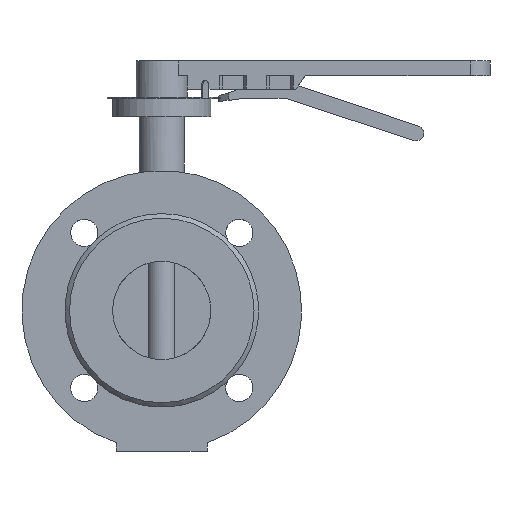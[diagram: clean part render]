
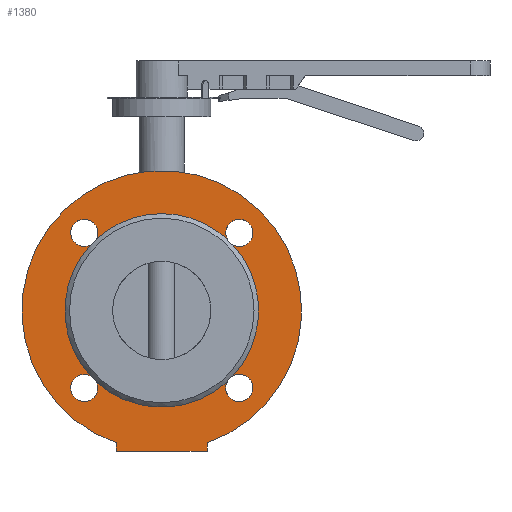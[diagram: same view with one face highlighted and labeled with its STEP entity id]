
A CAD part, front view. The second image highlights one B-rep face of the part: STEP entity #1380.
In plain terms, the highlighted planar face has unit normal (0, -1, 0).
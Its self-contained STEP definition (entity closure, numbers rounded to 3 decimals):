
#1380=ADVANCED_FACE('',(#2624,#2626),#2628,.T.);
#2624=FACE_BOUND('',#2625,.T.);
#2625=EDGE_LOOP('',(#3551,#3552,#3553,#3554));
#2626=FACE_BOUND('',#2627,.T.);
#2627=EDGE_LOOP('',(#3555,#3556,#3557,#3558,#3559,#3560,#3561,#3562,#3563,#3564,
#3565,#3566,#3567));
#2628=PLANE('',#2629);
#2629=AXIS2_PLACEMENT_3D('',#2630,#2631,#2632);
#2630=CARTESIAN_POINT('',(0.,-53.,0.));
#2631=DIRECTION('',(0.,-1.,0.));
#2632=DIRECTION('',(0.,0.,1.));
#3551=ORIENTED_EDGE('',*,*,#4015,.T.);
#3552=ORIENTED_EDGE('',*,*,#4013,.F.);
#3553=ORIENTED_EDGE('',*,*,#4011,.F.);
#3554=ORIENTED_EDGE('',*,*,#4010,.F.);
#3555=ORIENTED_EDGE('',*,*,#4031,.T.);
#3556=ORIENTED_EDGE('',*,*,#4033,.T.);
#3557=ORIENTED_EDGE('',*,*,#4069,.T.);
#3558=ORIENTED_EDGE('',*,*,#4036,.T.);
#3559=ORIENTED_EDGE('',*,*,#4035,.T.);
#3560=ORIENTED_EDGE('',*,*,#4070,.T.);
#3561=ORIENTED_EDGE('',*,*,#4039,.T.);
#3562=ORIENTED_EDGE('',*,*,#4038,.T.);
#3563=ORIENTED_EDGE('',*,*,#4071,.T.);
#3564=ORIENTED_EDGE('',*,*,#4040,.T.);
#3565=ORIENTED_EDGE('',*,*,#4042,.T.);
#3566=ORIENTED_EDGE('',*,*,#4072,.T.);
#3567=ORIENTED_EDGE('',*,*,#4073,.T.);
#4010=EDGE_CURVE('',#4711,#4709,#4713,.T.);
#4011=EDGE_CURVE('',#4709,#4714,#4715,.T.);
#4013=EDGE_CURVE('',#4714,#4717,#4718,.T.);
#4015=EDGE_CURVE('',#4711,#4717,#4720,.T.);
#4031=EDGE_CURVE('',#4742,#4743,#4744,.F.);
#4033=EDGE_CURVE('',#4743,#4745,#4747,.F.);
#4035=EDGE_CURVE('',#4751,#4748,#4752,.F.);
#4036=EDGE_CURVE('',#4749,#4751,#4753,.F.);
#4038=EDGE_CURVE('',#4757,#4754,#4758,.F.);
#4039=EDGE_CURVE('',#4755,#4757,#4759,.F.);
#4040=EDGE_CURVE('',#4760,#4761,#4762,.F.);
#4042=EDGE_CURVE('',#4761,#4763,#4765,.F.);
#4069=EDGE_CURVE('',#4745,#4749,#4811,.T.);
#4070=EDGE_CURVE('',#4748,#4755,#4812,.T.);
#4071=EDGE_CURVE('',#4754,#4760,#4813,.T.);
#4072=EDGE_CURVE('',#4763,#4814,#4815,.T.);
#4073=EDGE_CURVE('',#4814,#4742,#4816,.T.);
#4709=VERTEX_POINT('',#6689);
#4711=VERTEX_POINT('',#6693);
#4713=CIRCLE('',#6697,92.5);
#4714=VERTEX_POINT('',#6701);
#4715=LINE('',#6702,#6703);
#4717=VERTEX_POINT('',#6708);
#4718=LINE('',#6709,#6710);
#4720=LINE('',#6715,#6716);
#4742=VERTEX_POINT('',#6899);
#4743=VERTEX_POINT('',#6900);
#4744=CIRCLE('',#6901,9.);
#4745=VERTEX_POINT('',#6905);
#4747=CIRCLE('',#6957,9.);
#4748=VERTEX_POINT('',#6961);
#4749=VERTEX_POINT('',#6962);
#4751=VERTEX_POINT('',#7014);
#4752=CIRCLE('',#7015,9.);
#4753=CIRCLE('',#7019,9.);
#4754=VERTEX_POINT('',#7023);
#4755=VERTEX_POINT('',#7024);
#4757=VERTEX_POINT('',#7076);
#4758=CIRCLE('',#7077,9.);
#4759=CIRCLE('',#7081,9.);
#4760=VERTEX_POINT('',#7085);
#4761=VERTEX_POINT('',#7086);
#4762=CIRCLE('',#7087,9.);
#4763=VERTEX_POINT('',#7091);
#4765=CIRCLE('',#7143,9.);
#4811=CIRCLE('',#7447,64.);
#4812=CIRCLE('',#7451,64.);
#4813=CIRCLE('',#7455,64.);
#4814=VERTEX_POINT('',#7459);
#4815=CIRCLE('',#7460,64.);
#4816=CIRCLE('',#7464,64.);
#6689=CARTESIAN_POINT('',(30.,-53.,-87.5));
#6693=CARTESIAN_POINT('',(-30.,-53.,-87.5));
#6697=AXIS2_PLACEMENT_3D('',#6698,#6699,#6700);
#6698=CARTESIAN_POINT('',(0.,-53.,0.));
#6699=DIRECTION('',(0.,1.,0.));
#6700=DIRECTION('',(-0.324,0.,-0.946));
#6701=CARTESIAN_POINT('',(30.,-53.,-93.));
#6702=CARTESIAN_POINT('',(30.,-53.,-87.5));
#6703=VECTOR('',#6704,1.);
#6704=DIRECTION('',(0.,0.,-1.));
#6708=CARTESIAN_POINT('',(-30.,-53.,-93.));
#6709=CARTESIAN_POINT('',(30.,-53.,-93.));
#6710=VECTOR('',#6711,1.);
#6711=DIRECTION('',(-1.,0.,0.));
#6715=CARTESIAN_POINT('',(-30.,-53.,-87.5));
#6716=VECTOR('',#6717,1.);
#6717=DIRECTION('',(0.,0.,-1.));
#6899=CARTESIAN_POINT('',(43.247,-53.,47.177));
#6900=CARTESIAN_POINT('',(51.265,-53.,42.265));
#6901=AXIS2_PLACEMENT_3D('',#6902,#6903,#6904);
#6902=CARTESIAN_POINT('',(51.265,-53.,51.265));
#6903=DIRECTION('',(0.,-1.,0.));
#6904=DIRECTION('',(0.,0.,-1.));
#6905=CARTESIAN_POINT('',(47.177,-53.,43.247));
#6957=AXIS2_PLACEMENT_3D('',#6958,#6959,#6960);
#6958=CARTESIAN_POINT('',(51.265,-53.,51.265));
#6959=DIRECTION('',(0.,-1.,0.));
#6960=DIRECTION('',(-0.454,0.,-0.891));
#6961=CARTESIAN_POINT('',(43.247,-53.,-47.177));
#6962=CARTESIAN_POINT('',(47.177,-53.,-43.247));
#7014=CARTESIAN_POINT('',(42.265,-53.,-51.265));
#7015=AXIS2_PLACEMENT_3D('',#7016,#7017,#7018);
#7016=CARTESIAN_POINT('',(51.265,-53.,-51.265));
#7017=DIRECTION('',(0.,-1.,0.));
#7018=DIRECTION('',(-0.891,0.,0.454));
#7019=AXIS2_PLACEMENT_3D('',#7020,#7021,#7022);
#7020=CARTESIAN_POINT('',(51.265,-53.,-51.265));
#7021=DIRECTION('',(0.,-1.,0.));
#7022=DIRECTION('',(-1.,0.,0.));
#7023=CARTESIAN_POINT('',(-47.177,-53.,-43.247));
#7024=CARTESIAN_POINT('',(-43.247,-53.,-47.177));
#7076=CARTESIAN_POINT('',(-51.265,-53.,-42.265));
#7077=AXIS2_PLACEMENT_3D('',#7078,#7079,#7080);
#7078=CARTESIAN_POINT('',(-51.265,-53.,-51.265));
#7079=DIRECTION('',(0.,-1.,0.));
#7080=DIRECTION('',(0.454,0.,0.891));
#7081=AXIS2_PLACEMENT_3D('',#7082,#7083,#7084);
#7082=CARTESIAN_POINT('',(-51.265,-53.,-51.265));
#7083=DIRECTION('',(0.,-1.,0.));
#7084=DIRECTION('',(0.,0.,1.));
#7085=CARTESIAN_POINT('',(-47.177,-53.,43.247));
#7086=CARTESIAN_POINT('',(-42.265,-53.,51.265));
#7087=AXIS2_PLACEMENT_3D('',#7088,#7089,#7090);
#7088=CARTESIAN_POINT('',(-51.265,-53.,51.265));
#7089=DIRECTION('',(0.,-1.,0.));
#7090=DIRECTION('',(1.,0.,0.));
#7091=CARTESIAN_POINT('',(-43.247,-53.,47.177));
#7143=AXIS2_PLACEMENT_3D('',#7144,#7145,#7146);
#7144=CARTESIAN_POINT('',(-51.265,-53.,51.265));
#7145=DIRECTION('',(0.,-1.,0.));
#7146=DIRECTION('',(0.891,0.,-0.454));
#7447=AXIS2_PLACEMENT_3D('',#7448,#7449,#7450);
#7448=CARTESIAN_POINT('',(0.,-53.,0.));
#7449=DIRECTION('',(0.,1.,0.));
#7450=DIRECTION('',(0.737,0.,0.676));
#7451=AXIS2_PLACEMENT_3D('',#7452,#7453,#7454);
#7452=CARTESIAN_POINT('',(0.,-53.,0.));
#7453=DIRECTION('',(0.,1.,0.));
#7454=DIRECTION('',(0.676,0.,-0.737));
#7455=AXIS2_PLACEMENT_3D('',#7456,#7457,#7458);
#7456=CARTESIAN_POINT('',(0.,-53.,0.));
#7457=DIRECTION('',(0.,1.,0.));
#7458=DIRECTION('',(-0.737,0.,-0.676));
#7459=CARTESIAN_POINT('',(0.,-53.,64.));
#7460=AXIS2_PLACEMENT_3D('',#7461,#7462,#7463);
#7461=CARTESIAN_POINT('',(0.,-53.,0.));
#7462=DIRECTION('',(0.,1.,0.));
#7463=DIRECTION('',(-0.676,0.,0.737));
#7464=AXIS2_PLACEMENT_3D('',#7465,#7466,#7467);
#7465=CARTESIAN_POINT('',(0.,-53.,0.));
#7466=DIRECTION('',(0.,1.,0.));
#7467=DIRECTION('',(0.,0.,1.));
